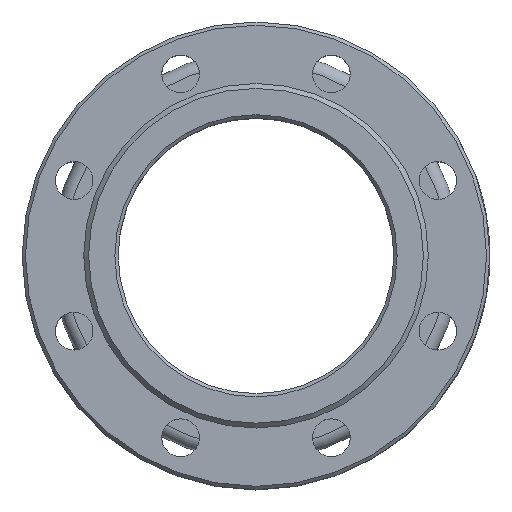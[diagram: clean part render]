
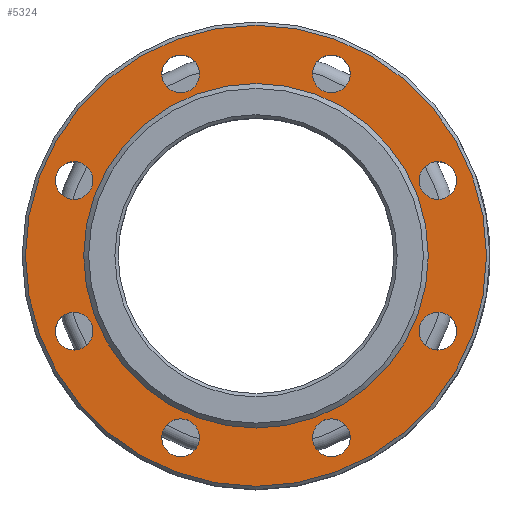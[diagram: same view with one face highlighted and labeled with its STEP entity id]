
A CAD part, top view. The second image highlights one B-rep face of the part: STEP entity #5324.
In plain terms, the highlighted planar face has unit normal (0, 0, 1).
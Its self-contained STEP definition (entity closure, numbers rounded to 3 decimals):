
#154=FACE_BOUND('',#968,.T.);
#155=FACE_BOUND('',#969,.T.);
#156=FACE_BOUND('',#970,.T.);
#157=FACE_BOUND('',#971,.T.);
#158=FACE_BOUND('',#972,.T.);
#159=FACE_BOUND('',#973,.T.);
#160=FACE_BOUND('',#974,.T.);
#161=FACE_BOUND('',#975,.T.);
#162=FACE_BOUND('',#976,.T.);
#399=PLANE('',#5735);
#647=FACE_OUTER_BOUND('',#967,.T.);
#967=EDGE_LOOP('',(#4517));
#968=EDGE_LOOP('',(#4518));
#969=EDGE_LOOP('',(#4519));
#970=EDGE_LOOP('',(#4520));
#971=EDGE_LOOP('',(#4521));
#972=EDGE_LOOP('',(#4522));
#973=EDGE_LOOP('',(#4523));
#974=EDGE_LOOP('',(#4524));
#975=EDGE_LOOP('',(#4525));
#976=EDGE_LOOP('',(#4526));
#1383=CIRCLE('',#5734,140.5);
#1384=CIRCLE('',#5736,11.5);
#1385=CIRCLE('',#5737,11.5);
#1386=CIRCLE('',#5738,11.5);
#1387=CIRCLE('',#5739,105.);
#1388=CIRCLE('',#5740,11.5);
#1389=CIRCLE('',#5741,11.5);
#1390=CIRCLE('',#5742,11.5);
#1391=CIRCLE('',#5743,11.5);
#1392=CIRCLE('',#5744,11.5);
#2499=VERTEX_POINT('',#11305);
#2500=VERTEX_POINT('',#11309);
#2501=VERTEX_POINT('',#11311);
#2502=VERTEX_POINT('',#11313);
#2503=VERTEX_POINT('',#11315);
#2504=VERTEX_POINT('',#11317);
#2505=VERTEX_POINT('',#11319);
#2506=VERTEX_POINT('',#11321);
#2507=VERTEX_POINT('',#11323);
#2508=VERTEX_POINT('',#11325);
#3183=EDGE_CURVE('',#2499,#2499,#1383,.T.);
#3184=EDGE_CURVE('',#2500,#2500,#1384,.T.);
#3185=EDGE_CURVE('',#2501,#2501,#1385,.T.);
#3186=EDGE_CURVE('',#2502,#2502,#1386,.T.);
#3187=EDGE_CURVE('',#2503,#2503,#1387,.T.);
#3188=EDGE_CURVE('',#2504,#2504,#1388,.T.);
#3189=EDGE_CURVE('',#2505,#2505,#1389,.T.);
#3190=EDGE_CURVE('',#2506,#2506,#1390,.T.);
#3191=EDGE_CURVE('',#2507,#2507,#1391,.T.);
#3192=EDGE_CURVE('',#2508,#2508,#1392,.T.);
#4517=ORIENTED_EDGE('',*,*,#3183,.T.);
#4518=ORIENTED_EDGE('',*,*,#3184,.T.);
#4519=ORIENTED_EDGE('',*,*,#3185,.T.);
#4520=ORIENTED_EDGE('',*,*,#3186,.T.);
#4521=ORIENTED_EDGE('',*,*,#3187,.T.);
#4522=ORIENTED_EDGE('',*,*,#3188,.T.);
#4523=ORIENTED_EDGE('',*,*,#3189,.T.);
#4524=ORIENTED_EDGE('',*,*,#3190,.T.);
#4525=ORIENTED_EDGE('',*,*,#3191,.T.);
#4526=ORIENTED_EDGE('',*,*,#3192,.T.);
#5324=ADVANCED_FACE('',(#647,#154,#155,#156,#157,#158,#159,#160,#161,#162),
#399,.F.);
#5734=AXIS2_PLACEMENT_3D('',#11307,#6832,#6833);
#5735=AXIS2_PLACEMENT_3D('',#11308,#6834,#6835);
#5736=AXIS2_PLACEMENT_3D('',#11310,#6836,#6837);
#5737=AXIS2_PLACEMENT_3D('',#11312,#6838,#6839);
#5738=AXIS2_PLACEMENT_3D('',#11314,#6840,#6841);
#5739=AXIS2_PLACEMENT_3D('',#11316,#6842,#6843);
#5740=AXIS2_PLACEMENT_3D('',#11318,#6844,#6845);
#5741=AXIS2_PLACEMENT_3D('',#11320,#6846,#6847);
#5742=AXIS2_PLACEMENT_3D('',#11322,#6848,#6849);
#5743=AXIS2_PLACEMENT_3D('',#11324,#6850,#6851);
#5744=AXIS2_PLACEMENT_3D('',#11326,#6852,#6853);
#6832=DIRECTION('center_axis',(0.,0.,1.));
#6833=DIRECTION('ref_axis',(0.,1.,0.));
#6834=DIRECTION('center_axis',(0.,0.,-1.));
#6835=DIRECTION('ref_axis',(-1.,0.,0.));
#6836=DIRECTION('center_axis',(0.,0.,-1.));
#6837=DIRECTION('ref_axis',(-1.,0.,0.));
#6838=DIRECTION('center_axis',(0.,0.,-1.));
#6839=DIRECTION('ref_axis',(-1.,0.,0.));
#6840=DIRECTION('center_axis',(0.,0.,-1.));
#6841=DIRECTION('ref_axis',(-1.,0.,0.));
#6842=DIRECTION('center_axis',(0.,0.,-1.));
#6843=DIRECTION('ref_axis',(1.,0.,0.));
#6844=DIRECTION('center_axis',(0.,0.,-1.));
#6845=DIRECTION('ref_axis',(-1.,0.,0.));
#6846=DIRECTION('center_axis',(0.,0.,-1.));
#6847=DIRECTION('ref_axis',(-1.,0.,0.));
#6848=DIRECTION('center_axis',(0.,0.,-1.));
#6849=DIRECTION('ref_axis',(-1.,0.,0.));
#6850=DIRECTION('center_axis',(0.,0.,-1.));
#6851=DIRECTION('ref_axis',(-1.,0.,0.));
#6852=DIRECTION('center_axis',(0.,0.,-1.));
#6853=DIRECTION('ref_axis',(-1.,0.,0.));
#11305=CARTESIAN_POINT('',(0.,-140.5,69.5));
#11307=CARTESIAN_POINT('Origin',(0.,0.,69.5));
#11308=CARTESIAN_POINT('Origin',(0.,0.,69.5));
#11309=CARTESIAN_POINT('',(122.366,45.922,69.5));
#11310=CARTESIAN_POINT('Origin',(110.866,45.922,69.5));
#11311=CARTESIAN_POINT('',(57.422,110.866,69.5));
#11312=CARTESIAN_POINT('Origin',(45.922,110.866,69.5));
#11313=CARTESIAN_POINT('',(-34.422,110.866,69.5));
#11314=CARTESIAN_POINT('Origin',(-45.922,110.866,69.5));
#11315=CARTESIAN_POINT('',(-105.,0.,69.5));
#11316=CARTESIAN_POINT('Origin',(0.,0.,69.5));
#11317=CARTESIAN_POINT('',(-99.366,45.922,69.5));
#11318=CARTESIAN_POINT('Origin',(-110.866,45.922,69.5));
#11319=CARTESIAN_POINT('',(57.422,-110.866,69.5));
#11320=CARTESIAN_POINT('Origin',(45.922,-110.866,69.5));
#11321=CARTESIAN_POINT('',(-99.366,-45.922,69.5));
#11322=CARTESIAN_POINT('Origin',(-110.866,-45.922,69.5));
#11323=CARTESIAN_POINT('',(122.366,-45.922,69.5));
#11324=CARTESIAN_POINT('Origin',(110.866,-45.922,69.5));
#11325=CARTESIAN_POINT('',(-34.422,-110.866,69.5));
#11326=CARTESIAN_POINT('Origin',(-45.922,-110.866,69.5));
